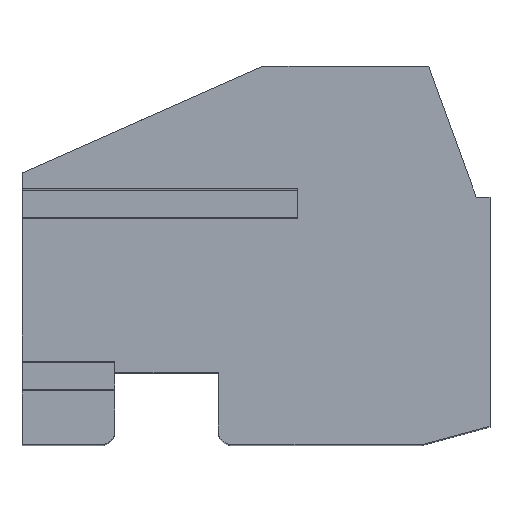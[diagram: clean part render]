
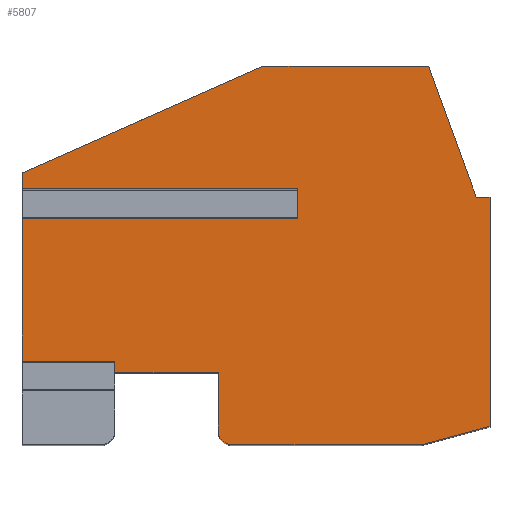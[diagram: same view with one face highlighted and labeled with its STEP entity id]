
A CAD part, top view. The second image highlights one B-rep face of the part: STEP entity #5807.
In plain terms, the highlighted planar face has unit normal (0, 0, 1).
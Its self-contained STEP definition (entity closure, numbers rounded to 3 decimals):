
#26=DIRECTION('',(0.,-1.,0.));
#27=VECTOR('',#26,0.465);
#28=CARTESIAN_POINT('',(0.,7.9,0.));
#29=LINE('',#28,#27);
#58=DIRECTION('',(0.,-1.,0.));
#59=VECTOR('',#58,4.13);
#60=CARTESIAN_POINT('',(0.,6.565,0.));
#61=LINE('',#60,#59);
#304=DIRECTION('',(-1.,0.,0.));
#305=VECTOR('',#304,4.817);
#306=CARTESIAN_POINT('',(11.817,11.,0.));
#307=LINE('',#306,#305);
#358=DIRECTION('',(-1.,0.,0.));
#359=VECTOR('',#358,0.4);
#360=CARTESIAN_POINT('',(13.6,7.2,0.));
#361=LINE('',#360,#359);
#370=DIRECTION('',(0.,1.,0.));
#371=VECTOR('',#370,6.664);
#372=CARTESIAN_POINT('',(13.6,0.536,0.));
#373=LINE('',#372,#371);
#406=DIRECTION('',(1.,0.,0.));
#407=VECTOR('',#406,5.5);
#408=CARTESIAN_POINT('',(6.1,0.,0.));
#409=LINE('',#408,#407);
#426=DIRECTION('',(0.,-1.,0.));
#427=VECTOR('',#426,1.7);
#428=CARTESIAN_POINT('',(5.7,2.1,0.));
#429=LINE('',#428,#427);
#438=DIRECTION('',(1.,0.,0.));
#439=VECTOR('',#438,3.);
#440=CARTESIAN_POINT('',(2.7,2.1,0.));
#441=LINE('',#440,#439);
#635=DIRECTION('',(1.,0.,0.));
#636=VECTOR('',#635,2.7);
#637=CARTESIAN_POINT('',(0.,2.435,0.));
#638=LINE('',#637,#636);
#643=CARTESIAN_POINT('',(6.1,0.4,0.));
#644=DIRECTION('',(0.,0.,-1.));
#645=DIRECTION('',(0.,-1.,0.));
#646=AXIS2_PLACEMENT_3D('',#643,#644,#645);
#648=DIRECTION('',(0.914,0.405,0.));
#649=VECTOR('',#648,7.656);
#650=CARTESIAN_POINT('',(0.,7.9,0.));
#651=LINE('',#650,#649);
#652=DIRECTION('',(0.342,-0.94,0.));
#653=VECTOR('',#652,4.044);
#654=CARTESIAN_POINT('',(11.817,11.,0.));
#655=LINE('',#654,#653);
#656=DIRECTION('',(-0.966,-0.259,0.));
#657=VECTOR('',#656,2.071);
#658=CARTESIAN_POINT('',(13.6,0.536,0.));
#659=LINE('',#658,#657);
#660=DIRECTION('',(0.,-1.,0.));
#661=VECTOR('',#660,0.335);
#662=CARTESIAN_POINT('',(2.7,2.435,0.));
#663=LINE('',#662,#661);
#692=DIRECTION('',(-1.,0.,0.));
#693=VECTOR('',#692,8.);
#694=CARTESIAN_POINT('',(8.,6.565,0.));
#695=LINE('',#694,#693);
#731=DIRECTION('',(0.,-1.,0.));
#732=VECTOR('',#731,0.87);
#733=CARTESIAN_POINT('',(8.,7.435,0.));
#734=LINE('',#733,#732);
#766=DIRECTION('',(1.,0.,0.));
#767=VECTOR('',#766,8.);
#768=CARTESIAN_POINT('',(0.,7.435,0.));
#769=LINE('',#768,#767);
#4077=CARTESIAN_POINT('',(0.,7.9,0.));
#4078=VERTEX_POINT('',#4077);
#4079=CARTESIAN_POINT('',(0.,7.435,0.));
#4080=VERTEX_POINT('',#4079);
#4097=CARTESIAN_POINT('',(0.,6.565,0.));
#4098=VERTEX_POINT('',#4097);
#4099=CARTESIAN_POINT('',(0.,2.435,0.));
#4100=VERTEX_POINT('',#4099);
#4233=CARTESIAN_POINT('',(11.817,11.,0.));
#4235=VERTEX_POINT('',#4233);
#4237=CARTESIAN_POINT('',(7.,11.,0.));
#4238=VERTEX_POINT('',#4237);
#4253=CARTESIAN_POINT('',(13.2,7.2,0.));
#4255=VERTEX_POINT('',#4253);
#4258=CARTESIAN_POINT('',(13.6,7.2,0.));
#4260=VERTEX_POINT('',#4258);
#4261=CARTESIAN_POINT('',(13.6,0.536,0.));
#4263=VERTEX_POINT('',#4261);
#4289=CARTESIAN_POINT('',(11.6,0.,0.));
#4291=VERTEX_POINT('',#4289);
#4293=CARTESIAN_POINT('',(6.1,0.,0.));
#4295=VERTEX_POINT('',#4293);
#4298=CARTESIAN_POINT('',(5.7,0.4,0.));
#4300=VERTEX_POINT('',#4298);
#4301=CARTESIAN_POINT('',(5.7,2.1,0.));
#4303=VERTEX_POINT('',#4301);
#4309=CARTESIAN_POINT('',(2.7,2.1,0.));
#4310=VERTEX_POINT('',#4309);
#4377=CARTESIAN_POINT('',(2.7,2.435,0.));
#4378=VERTEX_POINT('',#4377);
#4381=CARTESIAN_POINT('',(8.,6.565,0.));
#4382=VERTEX_POINT('',#4381);
#4383=CARTESIAN_POINT('',(8.,7.435,0.));
#4384=VERTEX_POINT('',#4383);
#5778=CARTESIAN_POINT('',(6.8,5.5,0.));
#5779=DIRECTION('',(0.,0.,1.));
#5780=DIRECTION('',(1.,0.,0.));
#5781=AXIS2_PLACEMENT_3D('',#5778,#5779,#5780);
#5782=PLANE('',#5781);
#5783=ORIENTED_EDGE('',*,*,#5539,.T.);
#5784=ORIENTED_EDGE('',*,*,#5554,.F.);
#5785=ORIENTED_EDGE('',*,*,#5571,.F.);
#5787=ORIENTED_EDGE('',*,*,#5786,.F.);
#5788=ORIENTED_EDGE('',*,*,#5766,.F.);
#5789=ORIENTED_EDGE('',*,*,#5211,.F.);
#5791=ORIENTED_EDGE('',*,*,#5790,.F.);
#5793=ORIENTED_EDGE('',*,*,#5792,.F.);
#5795=ORIENTED_EDGE('',*,*,#5794,.F.);
#5796=ORIENTED_EDGE('',*,*,#5191,.F.);
#5798=ORIENTED_EDGE('',*,*,#5797,.T.);
#5799=ORIENTED_EDGE('',*,*,#5397,.F.);
#5800=ORIENTED_EDGE('',*,*,#5434,.T.);
#5801=ORIENTED_EDGE('',*,*,#5449,.F.);
#5802=ORIENTED_EDGE('',*,*,#5464,.F.);
#5803=ORIENTED_EDGE('',*,*,#5509,.T.);
#5804=ORIENTED_EDGE('',*,*,#5524,.F.);
#5805=EDGE_LOOP('',(#5783,#5784,#5785,#5787,#5788,#5789,#5791,#5793,#5795,#5796,
#5798,#5799,#5800,#5801,#5802,#5803,#5804));
#5806=FACE_OUTER_BOUND('',#5805,.F.);
#5807=ADVANCED_FACE('',(#5806),#5782,.T.);
#647=CIRCLE('',#646,0.4);
#5191=EDGE_CURVE('',#4078,#4080,#29,.T.);
#5211=EDGE_CURVE('',#4098,#4100,#61,.T.);
#5397=EDGE_CURVE('',#4235,#4238,#307,.T.);
#5434=EDGE_CURVE('',#4235,#4255,#655,.T.);
#5449=EDGE_CURVE('',#4260,#4255,#361,.T.);
#5464=EDGE_CURVE('',#4263,#4260,#373,.T.);
#5509=EDGE_CURVE('',#4263,#4291,#659,.T.);
#5524=EDGE_CURVE('',#4295,#4291,#409,.T.);
#5539=EDGE_CURVE('',#4295,#4300,#647,.T.);
#5554=EDGE_CURVE('',#4303,#4300,#429,.T.);
#5571=EDGE_CURVE('',#4310,#4303,#441,.T.);
#5766=EDGE_CURVE('',#4100,#4378,#638,.T.);
#5786=EDGE_CURVE('',#4378,#4310,#663,.T.);
#5790=EDGE_CURVE('',#4382,#4098,#695,.T.);
#5792=EDGE_CURVE('',#4384,#4382,#734,.T.);
#5794=EDGE_CURVE('',#4080,#4384,#769,.T.);
#5797=EDGE_CURVE('',#4078,#4238,#651,.T.);
